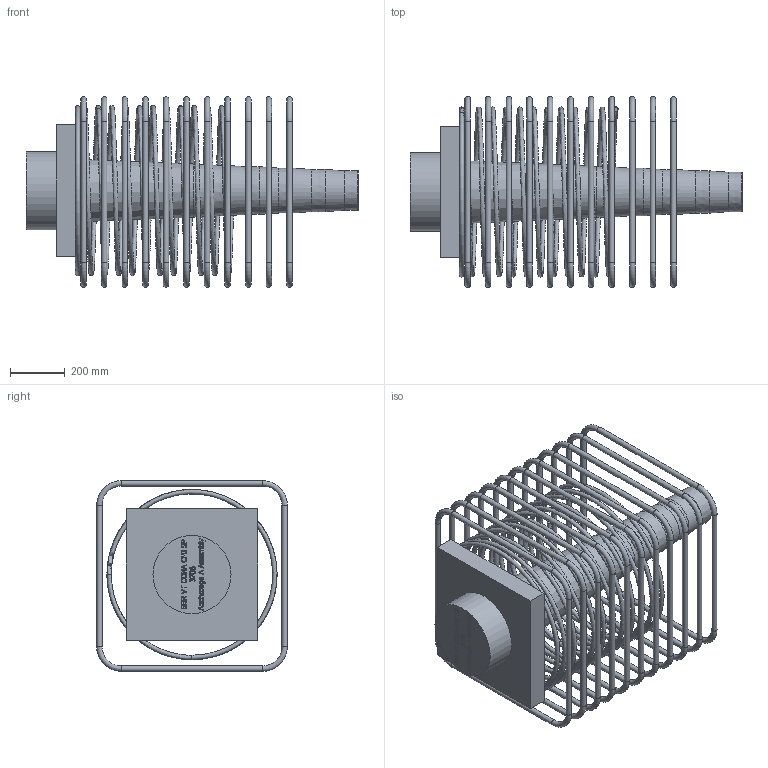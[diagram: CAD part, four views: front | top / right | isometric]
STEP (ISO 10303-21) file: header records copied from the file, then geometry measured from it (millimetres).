
FILE_DESCRIPTION(/* description */ (''),/* implementation_level */ '2;1');
FILE_NAME(/* name */ 'Z:\04 Publications\05 Give-out\BBR\6_3D_Models\BBR VT CONA CMI\BBR VT CONA CMI SP\03706\BBR VT CONA CMI SP 3706_Anchorage A Assembly_CS-34,28.stp',/* time_stamp */ '2017-05-09T10:20:58+02:00',/* author */ ('IP'),/* organization */ (''),/* preprocessor_version */ 'ST-DEVELOPER v16.1',/* originating_system */ 'Autodesk Inventor 2016',/* authorisation */ '');
FILE_SCHEMA (('AUTOMOTIVE_DESIGN { 1 0 10303 214 3 1 1 }'));
Length unit declared in the file: millimetre
Products named in the file (1): BBR VT CONA CMI SP 3706_Anchorage A Assembly_CS-34,28
Bounding box: 1210.1 x 695 x 695 mm (x, y, z)
Volume: 64862843.2 mm3; surface area: 4183076.1 mm2
Topology: 13 solids, 13 shells, 719 faces, 1882 edges, 1222 vertices
Faces by surface type: plane 316, bspline 301, torus 51, cylinder 45, cone 6
Full cylindrical faces by diameter (mm): 20 x44, 285 x1
Entity records: 28878 total; most frequent: CARTESIAN_POINT 12822, ORIENTED_EDGE 3562, DIRECTION 2123, EDGE_CURVE 1778, VERTEX_POINT 1220, LINE 1065, VECTOR 1065, EDGE_LOOP 881
